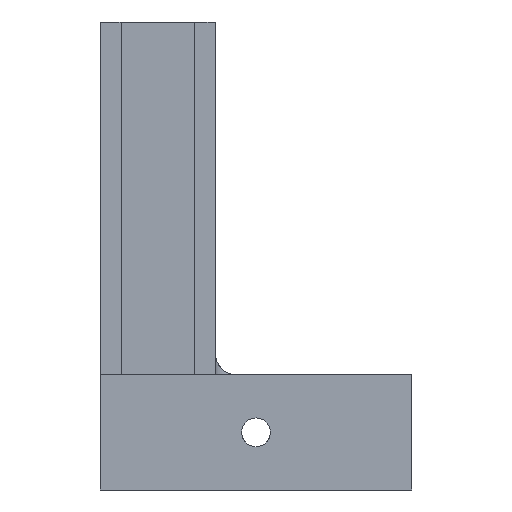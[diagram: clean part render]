
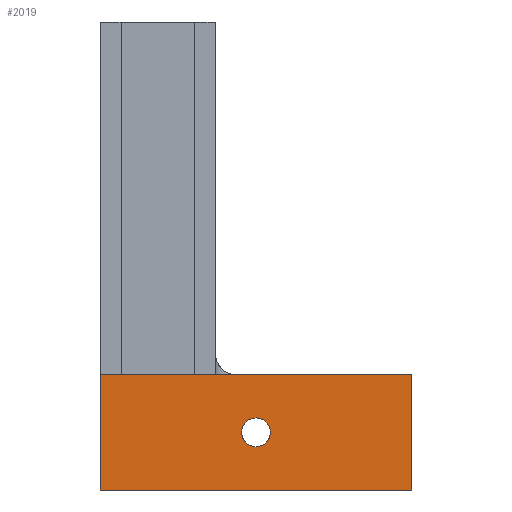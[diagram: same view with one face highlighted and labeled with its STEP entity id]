
A CAD part, front view. The second image highlights one B-rep face of the part: STEP entity #2019.
In plain terms, the highlighted planar face has unit normal (0, -1, 0).
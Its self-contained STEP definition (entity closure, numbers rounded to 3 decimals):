
#47 = EDGE_CURVE ( 'NONE', #1407, #1367, #2421, .T. ) ;
#106 = EDGE_CURVE ( 'NONE', #1484, #1336, #2980, .T. ) ;
#169 = EDGE_CURVE ( 'NONE', #1380, #1488, #824, .T. ) ;
#193 = EDGE_CURVE ( 'NONE', #1367, #1407, #4574, .T. ) ;
#226 = EDGE_CURVE ( 'NONE', #1484, #1380, #2936, .T. ) ;
#232 = EDGE_CURVE ( 'NONE', #1336, #1488, #2947, .T. ) ;
#560 = CARTESIAN_POINT ( 'NONE',  ( 0., 0., 0. ) ) ;
#596 = DIRECTION ( 'NONE',  ( 0., 1., 0. ) ) ;
#620 = DIRECTION ( 'NONE',  ( 1., 0., 0. ) ) ;
#641 = DIRECTION ( 'NONE',  ( 1., 0., 0. ) ) ;
#642 = CARTESIAN_POINT ( 'NONE',  ( 0., 0., 11. ) ) ;
#696 = CARTESIAN_POINT ( 'NONE',  ( 14.875, 0., 5.5 ) ) ;
#730 = DIRECTION ( 'NONE',  ( 0., 0., 1. ) ) ;
#758 = CARTESIAN_POINT ( 'NONE',  ( 29.75, 0., 11. ) ) ;
#770 = DIRECTION ( 'NONE',  ( 0., 0., -1. ) ) ;
#821 = VECTOR ( 'NONE', #770, 1000. ) ;
#824 = LINE ( 'NONE', #758, #821 ) ;
#871 = FACE_OUTER_BOUND ( 'NONE', #4006, .T. ) ;
#872 = FACE_BOUND ( 'NONE', #4013, .T. ) ;
#986 = CARTESIAN_POINT ( 'NONE',  ( 0., 0., 11. ) ) ;
#988 = DIRECTION ( 'NONE',  ( 0., 0., -1. ) ) ;
#1336 = VERTEX_POINT ( 'NONE', #2504 ) ;
#1367 = VERTEX_POINT ( 'NONE', #2632 ) ;
#1380 = VERTEX_POINT ( 'NONE', #2560 ) ;
#1407 = VERTEX_POINT ( 'NONE', #2571 ) ;
#1484 = VERTEX_POINT ( 'NONE', #3223 ) ;
#1488 = VERTEX_POINT ( 'NONE', #3308 ) ;
#1627 = AXIS2_PLACEMENT_3D ( 'NONE', #696, #596, #730 ) ;
#1656 = AXIS2_PLACEMENT_3D ( 'NONE', #3485, #3364, #3451 ) ;
#1719 = AXIS2_PLACEMENT_3D ( 'NONE', #3116, #3065, #3101 ) ;
#2019 = ADVANCED_FACE ( 'NONE', ( #872, #871 ), #3159, .F. ) ;
#2421 = CIRCLE ( 'NONE', #1656, 1.375 ) ;
#2504 = CARTESIAN_POINT ( 'NONE',  ( 0., 0., 0. ) ) ;
#2560 = CARTESIAN_POINT ( 'NONE',  ( 29.75, 0., 11. ) ) ;
#2571 = CARTESIAN_POINT ( 'NONE',  ( 14.875, 0., 4.125 ) ) ;
#2632 = CARTESIAN_POINT ( 'NONE',  ( 14.875, 0., 6.875 ) ) ;
#2922 = VECTOR ( 'NONE', #641, 1000. ) ;
#2936 = LINE ( 'NONE', #642, #2922 ) ;
#2947 = LINE ( 'NONE', #560, #2952 ) ;
#2952 = VECTOR ( 'NONE', #620, 1000. ) ;
#2980 = LINE ( 'NONE', #986, #2996 ) ;
#2996 = VECTOR ( 'NONE', #988, 1000. ) ;
#3065 = DIRECTION ( 'NONE',  ( 0., 1., 0. ) ) ;
#3101 = DIRECTION ( 'NONE',  ( 0., 0., 1. ) ) ;
#3116 = CARTESIAN_POINT ( 'NONE',  ( 0., 0., 11. ) ) ;
#3159 = PLANE ( 'NONE',  #1719 ) ;
#3223 = CARTESIAN_POINT ( 'NONE',  ( 0., 0., 11. ) ) ;
#3308 = CARTESIAN_POINT ( 'NONE',  ( 29.75, 0., 0. ) ) ;
#3364 = DIRECTION ( 'NONE',  ( 0., 1., 0. ) ) ;
#3451 = DIRECTION ( 'NONE',  ( 0., 0., 1. ) ) ;
#3485 = CARTESIAN_POINT ( 'NONE',  ( 14.875, 0., 5.5 ) ) ;
#3909 = ORIENTED_EDGE ( 'NONE', *, *, #106, .T. ) ;
#3910 = ORIENTED_EDGE ( 'NONE', *, *, #226, .F. ) ;
#3911 = ORIENTED_EDGE ( 'NONE', *, *, #232, .T. ) ;
#3912 = ORIENTED_EDGE ( 'NONE', *, *, #47, .T. ) ;
#3913 = ORIENTED_EDGE ( 'NONE', *, *, #193, .T. ) ;
#3914 = ORIENTED_EDGE ( 'NONE', *, *, #169, .F. ) ;
#4006 = EDGE_LOOP ( 'NONE', ( #3911, #3914, #3910, #3909 ) ) ;
#4013 = EDGE_LOOP ( 'NONE', ( #3913, #3912 ) ) ;
#4574 = CIRCLE ( 'NONE', #1627, 1.375 ) ;
